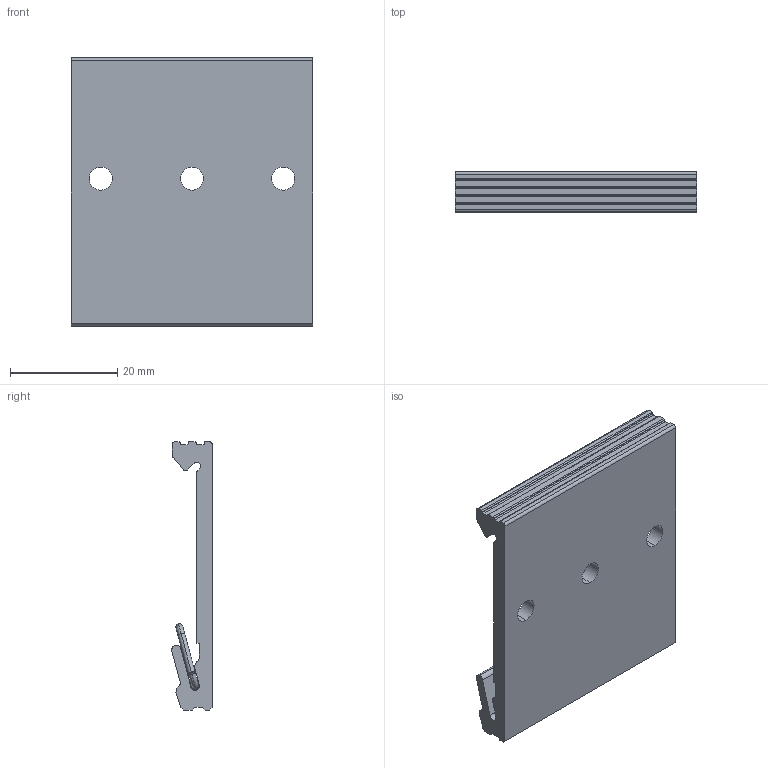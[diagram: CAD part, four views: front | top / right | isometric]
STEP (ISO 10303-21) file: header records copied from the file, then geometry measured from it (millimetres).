
FILE_DESCRIPTION (( 'STEP AP203' ), '1' );
FILE_NAME ('A-114.STEP', '2024-05-22T14:37:20', ( '' ), ( '' ), 'SwSTEP 2.0', 'SolidWorks 2021', '' );
FILE_SCHEMA (( 'CONFIG_CONTROL_DESIGN' ));
Length unit declared in the file: millimetre
Products named in the file (3): din_rail_tel; A-114
Assembly tree (2 placements, depth 2):
  A-114
    A-114
    din_rail_tel
Bounding box: 45 x 7.56 x 50 mm (x, y, z)
Volume: 8389.4 mm3; surface area: 6985.9 mm2
Topology: 2 solids, 2 shells, 89 faces, 229 edges, 144 vertices
Faces by surface type: cylinder 39, plane 34, bspline 16
Entity records: 3748 total; most frequent: CARTESIAN_POINT 1325, ORIENTED_EDGE 458, DIRECTION 433, EDGE_CURVE 229, AXIS2_PLACEMENT_3D 152, VERTEX_POINT 144, LINE 129, VECTOR 129
